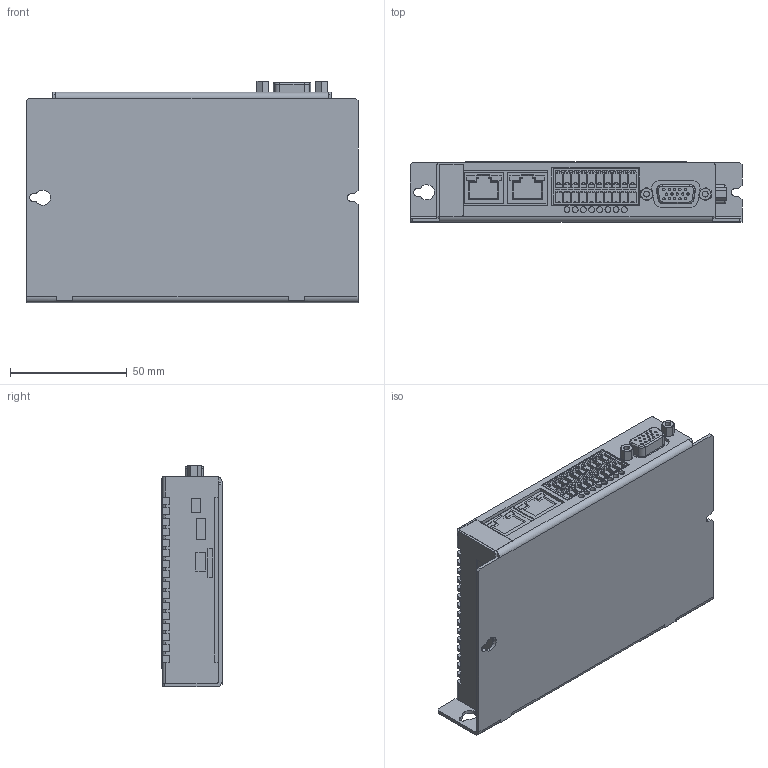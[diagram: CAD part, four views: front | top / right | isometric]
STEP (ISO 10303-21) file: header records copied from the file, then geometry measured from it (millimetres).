
FILE_DESCRIPTION (( 'STEP AP214' ), '1' );
FILE_NAME ('Jett-001_JM100x_3D_1-0.STEP', '2017-04-19T13:49:08', ( '' ), ( '' ), 'SwSTEP 2.0', 'SolidWorks 2016', '' );
FILE_SCHEMA (( 'AUTOMOTIVE_DESIGN' ));
Length unit declared in the file: millimetre
Products named in the file (1): Jett-001_JM100x_3D_1-0
Bounding box: 142 x 25.75 x 94.8 mm (x, y, z)
Volume: 276751.9 mm3; surface area: 40996.9 mm2
Topology: 1 solids, 5 shells, 1195 faces, 3121 edges, 2035 vertices
Faces by surface type: plane 847, cylinder 248, cone 80, torus 20
Entity records: 36548 total; most frequent: CARTESIAN_POINT 6847, ORIENTED_EDGE 6242, DIRECTION 5970, EDGE_CURVE 3121, LINE 2358, VECTOR 2358, VERTEX_POINT 2035, AXIS2_PLACEMENT_3D 1806
